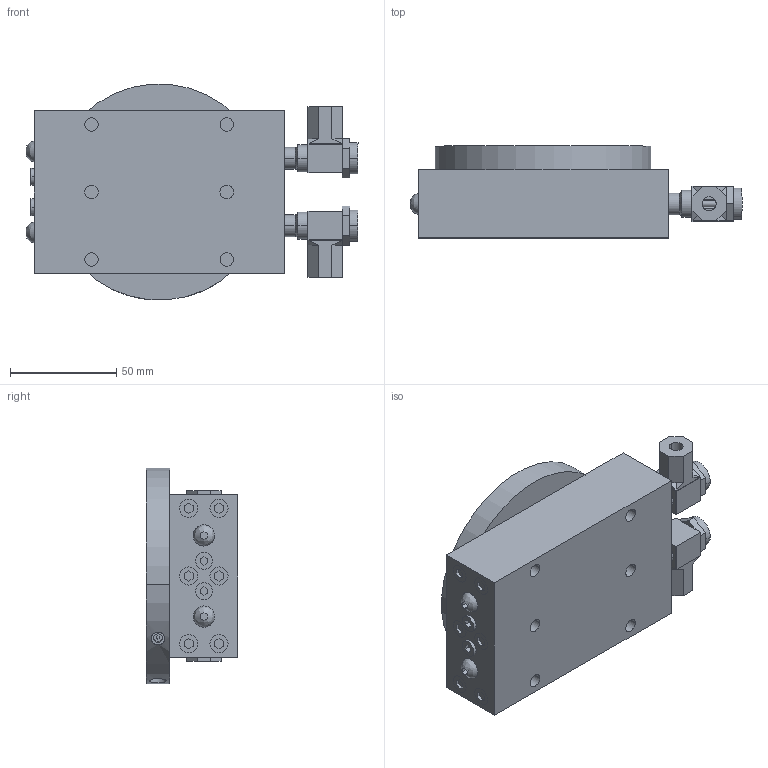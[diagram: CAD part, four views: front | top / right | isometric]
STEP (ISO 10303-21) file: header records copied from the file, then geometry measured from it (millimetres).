
FILE_DESCRIPTION (( 'STEP AP203' ), '1' );
FILE_NAME ('AGR-3 60-180 in IN.STEP', '2014-11-05T18:56:23', ( 'setup' ), ( '' ), 'SwSTEP 2.0', 'SolidWorks 2013', '' );
FILE_SCHEMA (( 'CONFIG_CONTROL_DESIGN' ));
Length unit declared in the file: inch
Products named in the file (11): AGR-3 MISC2; AGR-3 60-180 in IN; AGR-3 NUT3; AGR-3 NUTT; AGR-3 CONTROL; AGR-3 180 BODY; AGR-3 MISC; AGR-3 NUT; AGR-3 ROTARY PLATFORM; AGR-3 SCREW; AGR-3 ROUND NUT
Assembly tree (19 placements, depth 2):
  AGR-3 60-180 in IN
    AGR-3 180 BODY
    AGR-3 NUT  x4
    AGR-3 SCREW  x2
    AGR-3 MISC2  x2
    AGR-3 NUT3  x2
    AGR-3 NUTT  x2
    AGR-3 CONTROL  x2
    AGR-3 MISC
    AGR-3 ROTARY PLATFORM
    AGR-3 ROUND NUT  x2
Bounding box: 155.99 x 43.18 x 101.28 mm (x, y, z)
Volume: 366044.2 mm3; surface area: 74530.6 mm2
Topology: 19 solids, 20 shells, 465 faces, 1009 edges, 654 vertices
Faces by surface type: plane 294, cylinder 165, cone 4, bspline 2
Entity records: 9925 total; most frequent: CARTESIAN_POINT 1797, DIRECTION 1491, ORIENTED_EDGE 1270, EDGE_CURVE 635, AXIS2_PLACEMENT_3D 560, VERTEX_POINT 414, VECTOR 371, LINE 371
